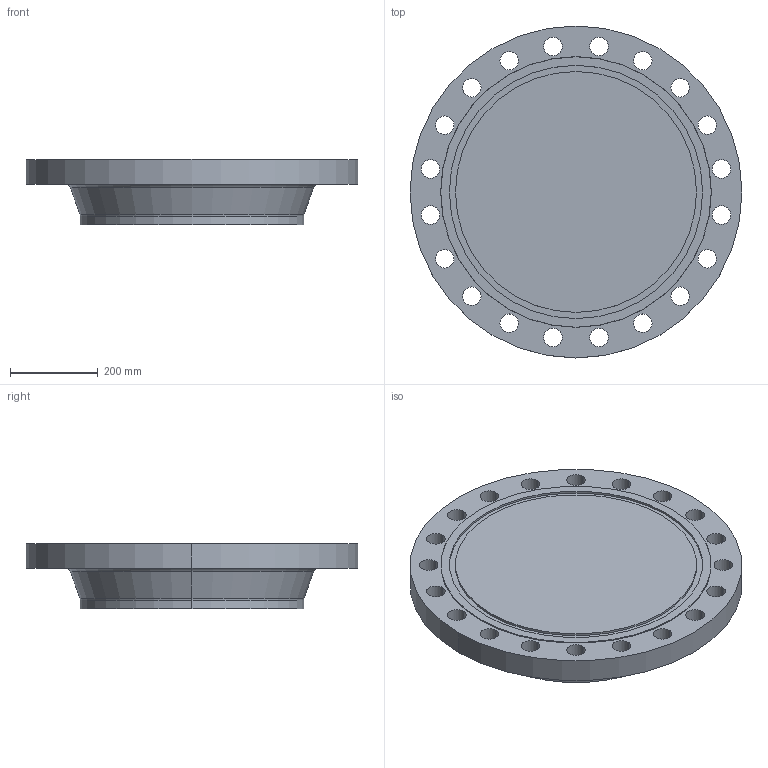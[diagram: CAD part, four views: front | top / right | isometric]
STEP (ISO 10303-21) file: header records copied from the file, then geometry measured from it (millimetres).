
FILE_DESCRIPTION (( 'STEP AP214' ), '1' );
FILE_NAME ('PN40 DN500 Type 21(ii) - Type D Face.STEP', '2018-12-29T04:22:43', ( '' ), ( '' ), 'SwSTEP 2.0', 'SolidWorks 2019', '' );
FILE_SCHEMA (( 'AUTOMOTIVE_DESIGN' ));
Length unit declared in the file: millimetre
Products named in the file (1): PN40 DN500 Type 21(ii) - Type D Face
Bounding box: 755 x 755 x 150 mm (x, y, z)
Volume: 43938638.5 mm3; surface area: 1251388.8 mm2
Topology: 1 solids, 1 shells, 62 faces, 162 edges, 106 vertices
Faces by surface type: cylinder 48, plane 6, torus 4, cone 4
Entity records: 2082 total; most frequent: DIRECTION 398, CARTESIAN_POINT 331, ORIENTED_EDGE 324, AXIS2_PLACEMENT_3D 173, EDGE_CURVE 162, CIRCLE 110, EDGE_LOOP 106, VERTEX_POINT 106
